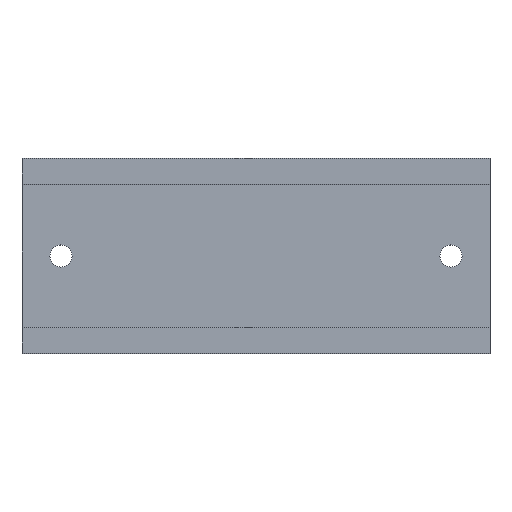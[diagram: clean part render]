
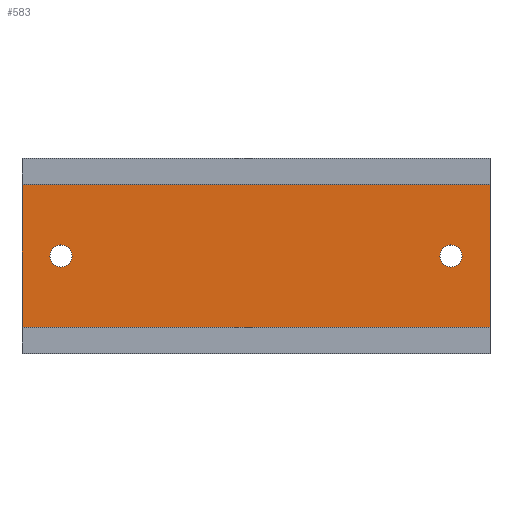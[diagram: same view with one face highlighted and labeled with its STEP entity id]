
A CAD part, top view. The second image highlights one B-rep face of the part: STEP entity #583.
In plain terms, the highlighted planar face has unit normal (0, 0, 1).
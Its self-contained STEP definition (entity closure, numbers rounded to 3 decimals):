
#32 = PLANE('',#33);
#33 = AXIS2_PLACEMENT_3D('',#34,#35,#36);
#34 = CARTESIAN_POINT('',(12.,30.,9.));
#35 = DIRECTION('',(1.,0.,-0.));
#36 = DIRECTION('',(0.,0.,1.));
#141 = VERTEX_POINT('',#142);
#142 = CARTESIAN_POINT('',(12.,56.,12.));
#156 = PLANE('',#157);
#157 = AXIS2_PLACEMENT_3D('',#158,#159,#160);
#158 = CARTESIAN_POINT('',(12.,56.,12.));
#159 = DIRECTION('',(-0.,1.,0.));
#160 = DIRECTION('',(0.,0.,1.));
#168 = EDGE_CURVE('',#169,#141,#171,.T.);
#169 = VERTEX_POINT('',#170);
#170 = CARTESIAN_POINT('',(12.,34.,12.));
#171 = SURFACE_CURVE('',#172,(#176,#183),.PCURVE_S1.);
#172 = LINE('',#173,#174);
#173 = CARTESIAN_POINT('',(12.,30.,12.));
#174 = VECTOR('',#175,1.);
#175 = DIRECTION('',(-0.,1.,0.));
#176 = PCURVE('',#32,#177);
#177 = DEFINITIONAL_REPRESENTATION('',(#178),#182);
#178 = LINE('',#179,#180);
#179 = CARTESIAN_POINT('',(3.,0.));
#180 = VECTOR('',#181,1.);
#181 = DIRECTION('',(0.,-1.));
#182 = ( GEOMETRIC_REPRESENTATION_CONTEXT(2)
PARAMETRIC_REPRESENTATION_CONTEXT() REPRESENTATION_CONTEXT('2D SPACE',''
  ) );
#183 = PCURVE('',#184,#189);
#184 = PLANE('',#185);
#185 = AXIS2_PLACEMENT_3D('',#186,#187,#188);
#186 = CARTESIAN_POINT('',(12.,30.,12.));
#187 = DIRECTION('',(0.,0.,1.));
#188 = DIRECTION('',(1.,0.,-0.));
#189 = DEFINITIONAL_REPRESENTATION('',(#190),#194);
#190 = LINE('',#191,#192);
#191 = CARTESIAN_POINT('',(0.,0.));
#192 = VECTOR('',#193,1.);
#193 = DIRECTION('',(0.,1.));
#194 = ( GEOMETRIC_REPRESENTATION_CONTEXT(2)
PARAMETRIC_REPRESENTATION_CONTEXT() REPRESENTATION_CONTEXT('2D SPACE',''
  ) );
#212 = PLANE('',#213);
#213 = AXIS2_PLACEMENT_3D('',#214,#215,#216);
#214 = CARTESIAN_POINT('',(12.,34.,12.));
#215 = DIRECTION('',(-0.,1.,0.));
#216 = DIRECTION('',(0.,0.,1.));
#314 = PLANE('',#315);
#315 = AXIS2_PLACEMENT_3D('',#316,#317,#318);
#316 = CARTESIAN_POINT('',(84.,30.,9.));
#317 = DIRECTION('',(1.,0.,-0.));
#318 = DIRECTION('',(0.,0.,1.));
#394 = CYLINDRICAL_SURFACE('',#395,1.7);
#395 = AXIS2_PLACEMENT_3D('',#396,#397,#398);
#396 = CARTESIAN_POINT('',(18.,45.,8.));
#397 = DIRECTION('',(0.,0.,1.));
#398 = DIRECTION('',(1.,0.,-0.));
#425 = CYLINDRICAL_SURFACE('',#426,1.7);
#426 = AXIS2_PLACEMENT_3D('',#427,#428,#429);
#427 = CARTESIAN_POINT('',(78.,45.,8.));
#428 = DIRECTION('',(0.,0.,1.));
#429 = DIRECTION('',(1.,0.,-0.));
#538 = EDGE_CURVE('',#141,#539,#541,.T.);
#539 = VERTEX_POINT('',#540);
#540 = CARTESIAN_POINT('',(84.,56.,12.));
#541 = SURFACE_CURVE('',#542,(#546,#553),.PCURVE_S1.);
#542 = LINE('',#543,#544);
#543 = CARTESIAN_POINT('',(12.,56.,12.));
#544 = VECTOR('',#545,1.);
#545 = DIRECTION('',(1.,0.,-0.));
#546 = PCURVE('',#156,#547);
#547 = DEFINITIONAL_REPRESENTATION('',(#548),#552);
#548 = LINE('',#549,#550);
#549 = CARTESIAN_POINT('',(0.,0.));
#550 = VECTOR('',#551,1.);
#551 = DIRECTION('',(0.,1.));
#552 = ( GEOMETRIC_REPRESENTATION_CONTEXT(2)
PARAMETRIC_REPRESENTATION_CONTEXT() REPRESENTATION_CONTEXT('2D SPACE',''
  ) );
#553 = PCURVE('',#184,#554);
#554 = DEFINITIONAL_REPRESENTATION('',(#555),#559);
#555 = LINE('',#556,#557);
#556 = CARTESIAN_POINT('',(0.,26.));
#557 = VECTOR('',#558,1.);
#558 = DIRECTION('',(1.,0.));
#559 = ( GEOMETRIC_REPRESENTATION_CONTEXT(2)
PARAMETRIC_REPRESENTATION_CONTEXT() REPRESENTATION_CONTEXT('2D SPACE',''
  ) );
#583 = ADVANCED_FACE('',(#584,#632,#658),#184,.T.);
#584 = FACE_BOUND('',#585,.T.);
#585 = EDGE_LOOP('',(#586,#587,#610,#631));
#586 = ORIENTED_EDGE('',*,*,#168,.F.);
#587 = ORIENTED_EDGE('',*,*,#588,.T.);
#588 = EDGE_CURVE('',#169,#589,#591,.T.);
#589 = VERTEX_POINT('',#590);
#590 = CARTESIAN_POINT('',(84.,34.,12.));
#591 = SURFACE_CURVE('',#592,(#596,#603),.PCURVE_S1.);
#592 = LINE('',#593,#594);
#593 = CARTESIAN_POINT('',(12.,34.,12.));
#594 = VECTOR('',#595,1.);
#595 = DIRECTION('',(1.,0.,-0.));
#596 = PCURVE('',#184,#597);
#597 = DEFINITIONAL_REPRESENTATION('',(#598),#602);
#598 = LINE('',#599,#600);
#599 = CARTESIAN_POINT('',(0.,4.));
#600 = VECTOR('',#601,1.);
#601 = DIRECTION('',(1.,0.));
#602 = ( GEOMETRIC_REPRESENTATION_CONTEXT(2)
PARAMETRIC_REPRESENTATION_CONTEXT() REPRESENTATION_CONTEXT('2D SPACE',''
  ) );
#603 = PCURVE('',#212,#604);
#604 = DEFINITIONAL_REPRESENTATION('',(#605),#609);
#605 = LINE('',#606,#607);
#606 = CARTESIAN_POINT('',(0.,0.));
#607 = VECTOR('',#608,1.);
#608 = DIRECTION('',(0.,1.));
#609 = ( GEOMETRIC_REPRESENTATION_CONTEXT(2)
PARAMETRIC_REPRESENTATION_CONTEXT() REPRESENTATION_CONTEXT('2D SPACE',''
  ) );
#610 = ORIENTED_EDGE('',*,*,#611,.T.);
#611 = EDGE_CURVE('',#589,#539,#612,.T.);
#612 = SURFACE_CURVE('',#613,(#617,#624),.PCURVE_S1.);
#613 = LINE('',#614,#615);
#614 = CARTESIAN_POINT('',(84.,30.,12.));
#615 = VECTOR('',#616,1.);
#616 = DIRECTION('',(-0.,1.,0.));
#617 = PCURVE('',#184,#618);
#618 = DEFINITIONAL_REPRESENTATION('',(#619),#623);
#619 = LINE('',#620,#621);
#620 = CARTESIAN_POINT('',(72.,0.));
#621 = VECTOR('',#622,1.);
#622 = DIRECTION('',(0.,1.));
#623 = ( GEOMETRIC_REPRESENTATION_CONTEXT(2)
PARAMETRIC_REPRESENTATION_CONTEXT() REPRESENTATION_CONTEXT('2D SPACE',''
  ) );
#624 = PCURVE('',#314,#625);
#625 = DEFINITIONAL_REPRESENTATION('',(#626),#630);
#626 = LINE('',#627,#628);
#627 = CARTESIAN_POINT('',(3.,0.));
#628 = VECTOR('',#629,1.);
#629 = DIRECTION('',(0.,-1.));
#630 = ( GEOMETRIC_REPRESENTATION_CONTEXT(2)
PARAMETRIC_REPRESENTATION_CONTEXT() REPRESENTATION_CONTEXT('2D SPACE',''
  ) );
#631 = ORIENTED_EDGE('',*,*,#538,.F.);
#632 = FACE_BOUND('',#633,.T.);
#633 = EDGE_LOOP('',(#634));
#634 = ORIENTED_EDGE('',*,*,#635,.F.);
#635 = EDGE_CURVE('',#636,#636,#638,.T.);
#636 = VERTEX_POINT('',#637);
#637 = CARTESIAN_POINT('',(19.7,45.,12.));
#638 = SURFACE_CURVE('',#639,(#644,#651),.PCURVE_S1.);
#639 = CIRCLE('',#640,1.7);
#640 = AXIS2_PLACEMENT_3D('',#641,#642,#643);
#641 = CARTESIAN_POINT('',(18.,45.,12.));
#642 = DIRECTION('',(0.,0.,1.));
#643 = DIRECTION('',(1.,0.,-0.));
#644 = PCURVE('',#184,#645);
#645 = DEFINITIONAL_REPRESENTATION('',(#646),#650);
#646 = CIRCLE('',#647,1.7);
#647 = AXIS2_PLACEMENT_2D('',#648,#649);
#648 = CARTESIAN_POINT('',(6.,15.));
#649 = DIRECTION('',(1.,0.));
#650 = ( GEOMETRIC_REPRESENTATION_CONTEXT(2)
PARAMETRIC_REPRESENTATION_CONTEXT() REPRESENTATION_CONTEXT('2D SPACE',''
  ) );
#651 = PCURVE('',#394,#652);
#652 = DEFINITIONAL_REPRESENTATION('',(#653),#657);
#653 = LINE('',#654,#655);
#654 = CARTESIAN_POINT('',(0.,4.));
#655 = VECTOR('',#656,1.);
#656 = DIRECTION('',(1.,0.));
#657 = ( GEOMETRIC_REPRESENTATION_CONTEXT(2)
PARAMETRIC_REPRESENTATION_CONTEXT() REPRESENTATION_CONTEXT('2D SPACE',''
  ) );
#658 = FACE_BOUND('',#659,.T.);
#659 = EDGE_LOOP('',(#660));
#660 = ORIENTED_EDGE('',*,*,#661,.F.);
#661 = EDGE_CURVE('',#662,#662,#664,.T.);
#662 = VERTEX_POINT('',#663);
#663 = CARTESIAN_POINT('',(79.7,45.,12.));
#664 = SURFACE_CURVE('',#665,(#670,#677),.PCURVE_S1.);
#665 = CIRCLE('',#666,1.7);
#666 = AXIS2_PLACEMENT_3D('',#667,#668,#669);
#667 = CARTESIAN_POINT('',(78.,45.,12.));
#668 = DIRECTION('',(0.,0.,1.));
#669 = DIRECTION('',(1.,0.,-0.));
#670 = PCURVE('',#184,#671);
#671 = DEFINITIONAL_REPRESENTATION('',(#672),#676);
#672 = CIRCLE('',#673,1.7);
#673 = AXIS2_PLACEMENT_2D('',#674,#675);
#674 = CARTESIAN_POINT('',(66.,15.));
#675 = DIRECTION('',(1.,0.));
#676 = ( GEOMETRIC_REPRESENTATION_CONTEXT(2)
PARAMETRIC_REPRESENTATION_CONTEXT() REPRESENTATION_CONTEXT('2D SPACE',''
  ) );
#677 = PCURVE('',#425,#678);
#678 = DEFINITIONAL_REPRESENTATION('',(#679),#683);
#679 = LINE('',#680,#681);
#680 = CARTESIAN_POINT('',(0.,4.));
#681 = VECTOR('',#682,1.);
#682 = DIRECTION('',(1.,0.));
#683 = ( GEOMETRIC_REPRESENTATION_CONTEXT(2)
PARAMETRIC_REPRESENTATION_CONTEXT() REPRESENTATION_CONTEXT('2D SPACE',''
  ) );
